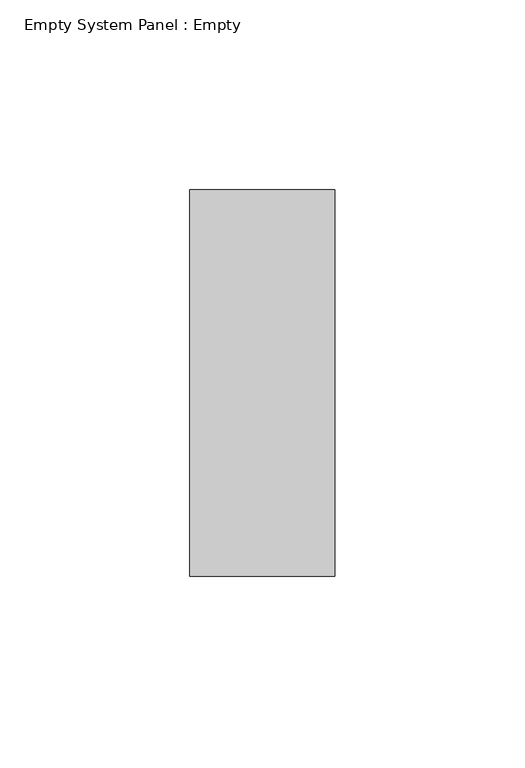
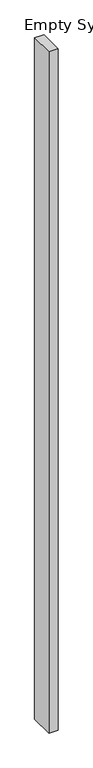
"""IFC4 building model written with IfcOpenShell, lengths in millimetres: plate geometry, Empty System Panel : Empty."""

import ifcopenshell
import ifcopenshell.guid

model = None  # the IFC model being written
_history = None  # IfcOwnerHistory: only IFC2X3 demands one
_inside = {}  # id of a spatial element -> (the spatial element, [elements in it])
_under = {}  # id of a project, library or spatial element -> (it, [spatial elements below it])
_declared = {}  # id of a project -> (the project, [libraries it declares])
_typed = {}  # id of a type object -> (the type object, [elements of that type])
_made_of = {}  # id of a material, layer set ... -> (it, [elements and type objects made of it])


def new_model(schema):
    """Start an empty IFC model of exactly this schema.

    Asked for "IFC4X3", IfcOpenShell would pick the latest addendum, in which some entities
    have other attributes; the version numbers below select the first issue.
    IFC2X3 requires an IfcOwnerHistory on every rooted entity: one is made here for all.
    """
    global model, _history
    if schema == "IFC4X3":
        model = ifcopenshell.file(schema_version=(4, 3, 0, 0))
    else:
        model = ifcopenshell.file(schema=schema)
    _inside.clear()
    _under.clear()
    _declared.clear()
    _typed.clear()
    _made_of.clear()
    _history = None
    if model.schema == "IFC2X3":
        org = make("IfcOrganization", Name="unknown")
        user = make(
            "IfcPersonAndOrganization",
            ThePerson=make("IfcPerson", FamilyName="unknown"),
            TheOrganization=org,
        )
        app = make(
            "IfcApplication",
            ApplicationDeveloper=org,
            Version="unknown",
            ApplicationFullName="unknown",
            ApplicationIdentifier="unknown",
        )
        _history = make(
            "IfcOwnerHistory",
            OwningUser=user,
            OwningApplication=app,
            ChangeAction="ADDED",
            CreationDate=0,
        )
    return model


def make(cls, **values):
    """One entity of the class cls with the attributes given. An attribute that is None is left unset."""
    return model.create_entity(
        cls, **{name: value for name, value in values.items() if value is not None}
    )


def rooted(cls, **values):
    """An entity with a GlobalId (a new one), such as an element, a storey or a relation."""
    return make(cls, GlobalId=ifcopenshell.guid.new(), OwnerHistory=_history, **values)


def si_unit(unit_type, name, prefix=None):
    """IfcSIUnit, for example si_unit("LENGTHUNIT", "METRE", prefix="MILLI")."""
    return make("IfcSIUnit", UnitType=unit_type, Prefix=prefix, Name=name)


def assignment(units):
    """IfcUnitAssignment: the units of a project."""
    return None if units is None else make("IfcUnitAssignment", Units=units)


def point(xyz):
    """IfcCartesianPoint."""
    return None if xyz is None else make("IfcCartesianPoint", Coordinates=xyz)


def direction(xyz):
    """IfcDirection."""
    return None if xyz is None else make("IfcDirection", DirectionRatios=xyz)


def frame(location, z_axis=None, x_axis=None):
    """IfcAxis2Placement3D, a coordinate frame: its origin and axes. An axis left out is left unset."""
    return make(
        "IfcAxis2Placement3D",
        Location=point(location),
        Axis=direction(z_axis),
        RefDirection=direction(x_axis),
    )


def origin():
    """The frame at (0, 0, 0) with its axes left unset."""
    return frame((0.0, 0.0, 0.0))


def origin_with_axes():
    """The frame at (0, 0, 0) with the z axis (0, 0, 1) and the x axis (1, 0, 0) written out."""
    return frame((0.0, 0.0, 0.0), z_axis=(0.0, 0.0, 1.0), x_axis=(1.0, 0.0, 0.0))


def place(relative_to, where):
    """IfcLocalPlacement: puts the frame where relative to a parent placement (None: the world)."""
    return make(
        "IfcLocalPlacement", PlacementRelTo=relative_to, RelativePlacement=where
    )


def context(
    kind, dimensions, precision=None, world=None, true_north=None, identifier=None
):
    """IfcGeometricRepresentationContext, for example the 3D "Model" context."""
    return make(
        "IfcGeometricRepresentationContext",
        ContextIdentifier=identifier,
        ContextType=kind,
        CoordinateSpaceDimension=dimensions,
        Precision=precision,
        WorldCoordinateSystem=world,
        TrueNorth=true_north,
    )


def project(units=None, contexts=None):
    """IfcProject with its units and contexts."""
    return rooted(
        "IfcProject",
        Name="project",
        RepresentationContexts=contexts,
        UnitsInContext=assignment(units),
    )


def spatial(cls, under=None, at=None, **own):
    """A site, building, storey or space (cls), placed at a placement, below another one or the project."""
    s = rooted(cls, ObjectPlacement=at, **own)
    if under is not None:
        _under.setdefault(under.id(), (under, []))[1].append(s)
    return s


def polyline(points):
    """IfcPolyline through the points."""
    return make("IfcPolyline", Points=[point(p) for p in points])


def outline(outer, holes=None, kind="AREA"):
    """IfcArbitraryClosedProfileDef: a profile drawn as a closed curve; with holes, ...WithVoids."""
    if holes is None:
        return make("IfcArbitraryClosedProfileDef", ProfileType=kind, OuterCurve=outer)
    return make(
        "IfcArbitraryProfileDefWithVoids",
        ProfileType=kind,
        OuterCurve=outer,
        InnerCurves=holes,
    )


def extrude(swept, where, along, depth):
    """IfcExtrudedAreaSolid: the profile swept, set in the frame where, extruded along a direction by depth."""
    return make(
        "IfcExtrudedAreaSolid",
        SweptArea=swept,
        Position=where,
        ExtrudedDirection=direction(along),
        Depth=depth,
    )


def shape(context_of_items, identifier, shape_type, items):
    """IfcShapeRepresentation: the items that make up one representation, for example the "Body"."""
    return make(
        "IfcShapeRepresentation",
        ContextOfItems=context_of_items,
        RepresentationIdentifier=identifier,
        RepresentationType=shape_type,
        Items=items,
    )


def source(mapping_origin, context_of_items, identifier, shape_type, items):
    """IfcRepresentationMap: a shape defined once, which mapped items show again and again."""
    return make(
        "IfcRepresentationMap",
        MappingOrigin=mapping_origin,
        MappedRepresentation=shape(context_of_items, identifier, shape_type, items),
    )


def transform(
    local_origin,
    x_axis=None,
    y_axis=None,
    z_axis=None,
    scale=None,
    scale2=None,
    scale3=None,
    uniform=True,
):
    """IfcCartesianTransformationOperator3D, or its non-uniform kind. x_axis, y_axis, z_axis: its Axis1, 2, 3."""
    if uniform:
        return make(
            "IfcCartesianTransformationOperator3D",
            Axis1=direction(x_axis),
            Axis2=direction(y_axis),
            LocalOrigin=point(local_origin),
            Scale=scale,
            Axis3=direction(z_axis),
        )
    return make(
        "IfcCartesianTransformationOperator3DnonUniform",
        Axis1=direction(x_axis),
        Axis2=direction(y_axis),
        LocalOrigin=point(local_origin),
        Scale=scale,
        Axis3=direction(z_axis),
        Scale2=scale2,
        Scale3=scale3,
    )


def mapped(mapping_source, mapping_target):
    """IfcMappedItem: shows the shape of a source again, moved by a transform."""
    return make(
        "IfcMappedItem", MappingSource=mapping_source, MappingTarget=mapping_target
    )


def made_of(thing, what):
    """Note that an element or type object is made of a material, layer set ...; save() writes the relation."""
    if what is not None:
        _made_of.setdefault(what.id(), (what, []))[1].append(thing)
    return thing


def element(
    cls,
    number,
    at=None,
    inside=None,
    cuts=None,
    type_object=None,
    material=None,
    context=None,
    identifier="Body",
    shape_type=None,
    held_by="IfcProductDefinitionShape",
    body=None,
    shapes=None,
    **own,
):
    """One element of the class cls, such as IfcWall. Its Tag is "e" and its number.

    at: its placement. inside: the storey or other place that contains it. cuts: it is an
    opening in that element (IfcRelVoidsElement). A single representation is given by context,
    identifier, shape_type and body (its items); several are given by shapes. held_by: the class
    of the entity that holds the representations. save() writes the other relations.
    """
    e = rooted(cls, Tag="e%d" % number, ObjectPlacement=at, **own)
    if body is not None:
        shapes = [shape(context, identifier, shape_type, body)]
    if shapes is not None:
        e.Representation = make(held_by, Representations=shapes)
    if inside is not None:
        _inside.setdefault(inside.id(), (inside, []))[1].append(e)
    if cuts is not None:
        rooted(
            "IfcRelVoidsElement", RelatingBuildingElement=cuts, RelatedOpeningElement=e
        )
    if type_object is not None:
        _typed.setdefault(type_object.id(), (type_object, []))[1].append(e)
    return made_of(e, material)


def aggregate(whole, parts):
    """IfcRelAggregates: a whole, such as a stair, and the parts it consists of."""
    return rooted("IfcRelAggregates", RelatingObject=whole, RelatedObjects=parts)


def save(model, path):
    """Write the relations noted so far, then the file.

    IfcRelAggregates (storeys below a building ...), IfcRelContainedInSpatialStructure (elements
    in a storey), IfcRelDefinesByType, IfcRelAssociatesMaterial and IfcRelDeclares: one each for
    every whole, place, type object, material and project.
    """
    for whole, parts in _under.values():
        aggregate(whole, parts)
    for where, things in _inside.values():
        rooted(
            "IfcRelContainedInSpatialStructure",
            RelatedElements=things,
            RelatingStructure=where,
        )
    for kind, things in _typed.values():
        rooted("IfcRelDefinesByType", RelatedObjects=things, RelatingType=kind)
    for what, things in _made_of.values():
        rooted("IfcRelAssociatesMaterial", RelatedObjects=things, RelatingMaterial=what)
    for by, libraries in _declared.values():
        rooted("IfcRelDeclares", RelatingContext=by, RelatedDefinitions=libraries)
    model.write(path)


def empty_system_panel_empty_7edb7af3(model_context):
    return source(origin(), model_context, "Body", "SweptSolid", [
        extrude(outline(polyline([(19.05, -50.8), (-19.05, -50.8), (-19.05, 50.8), (19.05, 50.8), (19.05, -50.8)])), origin_with_axes(), (0.0, 0.0, 1.0), 2997.2),
    ])


if __name__ == "__main__":
    model = new_model("IFC4")
    model_context = context("Model", 3, world=origin())
    ifc_project = project(units=[si_unit("LENGTHUNIT", "METRE", prefix="MILLI")], contexts=[model_context])
    site = spatial("IfcSite", under=ifc_project)
    building = spatial("IfcBuilding", under=site)
    placement = place(None, origin())
    empty_system_panel_empty_shape = empty_system_panel_empty_7edb7af3(model_context)
    element("IfcPlate", 1, ObjectType="Empty System Panel : Empty", at=placement, inside=building, context=model_context, shape_type="MappedRepresentation", body=[
        mapped(empty_system_panel_empty_shape, transform((0.0, 0.0, 0.0), x_axis=(1.0, 0.0, 0.0), y_axis=(0.0, 1.0, 0.0), z_axis=(0.0, 0.0, 1.0))),
    ])
    save(model, "model.ifc")
